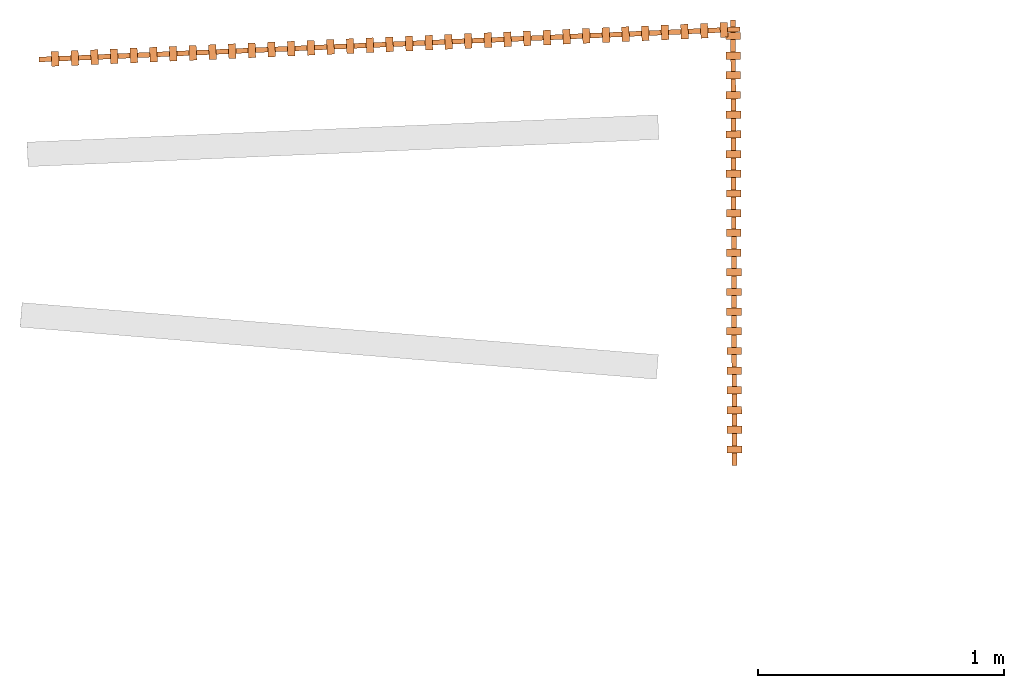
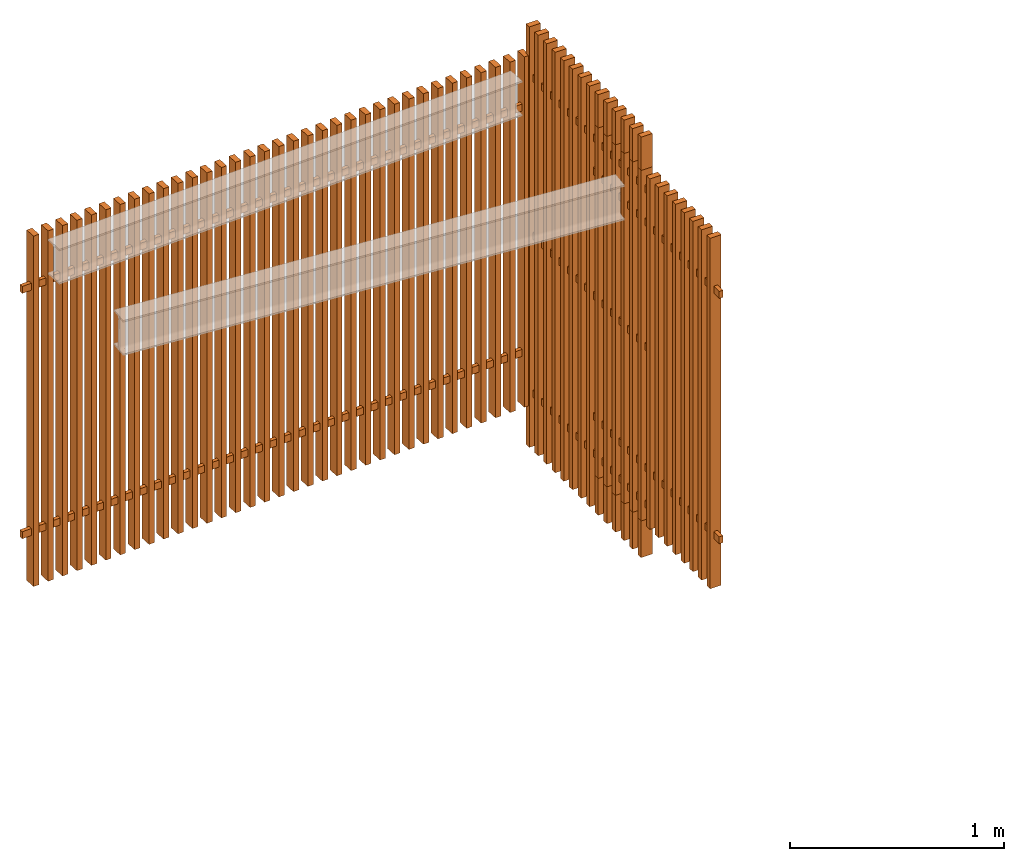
# One storey, part 2 of 2: 5 proxies.
"""IFC2X3 building model written with IfcOpenShell, lengths in metres."""

from ifc_helpers import new_model, entity, si_unit, converted_unit, derived_unit, direction, frame, frame_2d, origin, origin_2d_with_axis, place, context, subcontext, project, spatial, rectangle, extrude, source, transform, mapped, material, type_object, type_shapes, element, save


model = new_model("IFC2X3")

# Units and contexts
model_context = context("Model", 3, precision=1e-05, world=origin(), true_north=direction((6.123031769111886e-17, 1.0)))
body_context = subcontext(model_context, "Body", "Model", "MODEL_VIEW")
ifc_project = project(units=[si_unit("LENGTHUNIT", "METRE"), si_unit("AREAUNIT", "SQUARE_METRE"), converted_unit("PLANEANGLEUNIT", "DEGREE", entity("IfcPlaneAngleMeasure", 0.017453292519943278), si_unit("PLANEANGLEUNIT", "RADIAN"), dimensions=[0, 0, 0, 0, 0, 0, 0]), derived_unit("THERMALTRANSMITTANCEUNIT", [(si_unit("MASSUNIT", "GRAM", prefix="KILO"), 1), (si_unit("THERMODYNAMICTEMPERATUREUNIT", "KELVIN"), -1), (si_unit("TIMEUNIT", "SECOND"), -3)])], contexts=[model_context])

# Site, building, storey
site_placement = place(None, origin())
site = spatial("IfcSite", under=ifc_project, at=site_placement, Name="Default", CompositionType="ELEMENT")
building_placement = place(site_placement, origin())
building = spatial("IfcBuilding", under=site, at=building_placement, CompositionType="ELEMENT")
storey_placement = place(building_placement, frame((0.0, 0.0, 4.580000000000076)))
storey = spatial("IfcBuildingStorey", under=building, at=storey_placement, Name="01_N1 CAF", CompositionType="ELEMENT", Elevation=4.580000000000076)

# Proxies
ifc_material = material(Name="blackebony")
building_element_proxy_type_1 = type_object("IfcBuildingElementProxyType", Name="SENBON Lattice Fence_Reversible Unit_gap 50mm:千本格子リバーシブルユニット\u3000隙間50㎜_H2000", PredefinedType="NOTDEFINED", material=ifc_material)
shared_shape_1 = source(origin(), body_context, "Body", "SweptSolid", [
    extrude(rectangle(XDim=0.029999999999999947, YDim=0.060000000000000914, at=origin_2d_with_axis()), frame((0.4399999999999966, 0.0, 0.0), z_axis=(0.0, 0.0, 1.0), x_axis=(-1.0, 0.0, 0.0)), (0.0, 0.0, 1.0), 2.0),
    extrude(rectangle(XDim=0.029999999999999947, YDim=0.060000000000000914, at=origin_2d_with_axis()), frame((0.3599999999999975, 0.0, 0.0), z_axis=(0.0, 0.0, 1.0), x_axis=(-1.0, 0.0, 0.0)), (0.0, 0.0, 1.0), 2.0),
    extrude(rectangle(XDim=0.02999999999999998, YDim=0.060000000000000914, at=frame_2d((-1.734723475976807e-17, 0.0), x_axis=(1.0, 0.0))), frame((0.2799999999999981, 0.0, 0.0), z_axis=(0.0, 0.0, 1.0), x_axis=(-1.0, 0.0, 0.0)), (0.0, 0.0, 1.0), 2.0),
    extrude(rectangle(XDim=0.02999999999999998, YDim=0.060000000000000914, at=frame_2d((-1.734723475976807e-17, 0.0), x_axis=(1.0, 0.0))), frame((0.19999999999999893, 0.0, 0.0), z_axis=(0.0, 0.0, 1.0), x_axis=(-1.0, 0.0, 0.0)), (0.0, 0.0, 1.0), 2.0),
    extrude(rectangle(XDim=0.029999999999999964, YDim=0.060000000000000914, at=frame_2d((8.673617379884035e-18, 0.0), x_axis=(1.0, 0.0))), frame((0.11999999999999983, 0.0, 0.0), z_axis=(0.0, 0.0, 1.0), x_axis=(-1.0, 0.0, 0.0)), (0.0, 0.0, 1.0), 2.0),
    extrude(rectangle(XDim=0.02999999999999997, YDim=0.060000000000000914, at=frame_2d((2.6020852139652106e-18, 0.0), x_axis=(1.0, 0.0))), frame((0.04000000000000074, 0.0, 0.0), z_axis=(0.0, 0.0, 1.0), x_axis=(-1.0, 0.0, 0.0)), (0.0, 0.0, 1.0), 2.0),
    extrude(rectangle(XDim=0.02999999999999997, YDim=0.060000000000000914, at=frame_2d((4.336808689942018e-18, 0.0), x_axis=(1.0, 0.0))), frame((-0.03999999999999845, 0.0, 0.0), z_axis=(0.0, 0.0, 1.0), x_axis=(-1.0, 0.0, 0.0)), (0.0, 0.0, 1.0), 2.0),
    extrude(rectangle(XDim=0.029999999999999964, YDim=0.060000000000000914, at=frame_2d((8.673617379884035e-18, 0.0), x_axis=(1.0, 0.0))), frame((-0.11999999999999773, 0.0, 0.0), z_axis=(0.0, 0.0, 1.0), x_axis=(-1.0, 0.0, 0.0)), (0.0, 0.0, 1.0), 2.0),
    extrude(rectangle(XDim=0.02999999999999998, YDim=0.060000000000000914, at=frame_2d((-1.734723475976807e-17, 0.0), x_axis=(1.0, 0.0))), frame((-0.1999999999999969, 0.0, 0.0), z_axis=(0.0, 0.0, 1.0), x_axis=(-1.0, 0.0, 0.0)), (0.0, 0.0, 1.0), 2.0),
    extrude(rectangle(XDim=0.02999999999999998, YDim=0.060000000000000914, at=frame_2d((-1.734723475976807e-17, 0.0), x_axis=(1.0, 0.0))), frame((-0.27999999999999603, 0.0, 0.0), z_axis=(0.0, 0.0, 1.0), x_axis=(-1.0, 0.0, 0.0)), (0.0, 0.0, 1.0), 2.0),
    extrude(rectangle(XDim=0.029999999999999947, YDim=0.060000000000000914, at=origin_2d_with_axis()), frame((-0.3599999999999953, 0.0, 0.0), z_axis=(0.0, 0.0, 1.0), x_axis=(-1.0, 0.0, 0.0)), (0.0, 0.0, 1.0), 2.0),
    extrude(rectangle(XDim=0.029999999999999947, YDim=0.060000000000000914, at=origin_2d_with_axis()), frame((-0.43999999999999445, 0.0, 0.0), z_axis=(0.0, 0.0, 1.0), x_axis=(-1.0, 0.0, 0.0)), (0.0, 0.0, 1.0), 2.0),
    extrude(rectangle(XDim=0.029999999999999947, YDim=0.060000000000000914, at=origin_2d_with_axis()), frame((0.5199999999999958, 0.0, 0.0), z_axis=(0.0, 0.0, 1.0), x_axis=(-1.0, 0.0, 0.0)), (0.0, 0.0, 1.0), 2.0),
    extrude(rectangle(XDim=0.02, YDim=1.17, at=origin_2d_with_axis()), frame((0.0, 0.0, 1.679999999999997), z_axis=(0.0, 0.0, 1.0), x_axis=(0.0, 1.0, 0.0)), (0.0, 0.0, 1.0), 0.04000000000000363),
    extrude(rectangle(XDim=0.029999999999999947, YDim=0.060000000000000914, at=origin_2d_with_axis()), frame((-0.5199999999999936, 0.0, 0.0), z_axis=(0.0, 0.0, 1.0), x_axis=(-1.0, 0.0, 0.0)), (0.0, 0.0, 1.0), 2.0),
    extrude(rectangle(XDim=0.02, YDim=1.17, at=origin_2d_with_axis()), frame((0.0, 0.0, 0.2800000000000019), z_axis=(0.0, 0.0, 1.0), x_axis=(0.0, 1.0, 0.0)), (0.0, 0.0, 1.0), 0.040000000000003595),
])
type_shapes(building_element_proxy_type_1, [shared_shape_1])
for number, where, z_axis, x_axis in (
    (1, (21.669949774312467, 147.42408629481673, -4.13), (0.0, 0.0, 1.0), (0.0033200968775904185, -0.9999944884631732, 0.0)),
    (2, (19.430839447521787, 148.51374538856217, -4.110000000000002), (0.0, 0.0, 1.0), (0.9990648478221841, 0.04323690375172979, 0.0)),
    (3, (20.54979476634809, 148.5621708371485, -4.110000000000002), (0.0, 0.0, 1.0), (0.9990648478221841, 0.04323690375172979, 0.0)),
    (4, (21.109271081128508, 148.58638350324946, -4.110000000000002), (0.0, 0.0, 1.0), (0.9990648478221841, 0.04323690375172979, 0.0)),
):
    element("IfcBuildingElementProxy", number, at=place(storey_placement, frame(where, z_axis=z_axis, x_axis=x_axis)), inside=storey, type_object=building_element_proxy_type_1, material=ifc_material, Name="SENBON Lattice Fence_Reversible Unit_gap 50mm:千本格子リバーシブルユニット\u3000隙間50㎜_H2000", ObjectType="SENBON Lattice Fence_Reversible Unit_gap 50mm:千本格子リバーシブルユニット\u3000隙間50㎜_H2000", context=body_context, shape_type="MappedRepresentation", body=[
        mapped(shared_shape_1, transform((0.0, 0.0, 0.0), scale=1.0)),
    ])
building_element_proxy_type_2 = type_object("IfcBuildingElementProxyType", Name="SENBON Lattice Fence_Reversible Unit_gap 50mm:千本格子リバーシブルユニット\u3000隙間50㎜_H2400", PredefinedType="NOTDEFINED", material=ifc_material)
shared_shape_2 = source(origin(), body_context, "Body", "SweptSolid", [
    extrude(rectangle(XDim=0.02, YDim=1.17, at=origin_2d_with_axis()), frame((0.0, 0.0, 1.1799999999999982), z_axis=(0.0, 0.0, 1.0), x_axis=(0.0, 1.0, 0.0)), (0.0, 0.0, 1.0), 0.0400000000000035),
    extrude(rectangle(XDim=0.029999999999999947, YDim=0.060000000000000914, at=origin_2d_with_axis()), frame((0.4399999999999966, 0.0, 0.0), z_axis=(0.0, 0.0, 1.0), x_axis=(-1.0, 0.0, 0.0)), (0.0, 0.0, 1.0), 2.4000000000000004),
    extrude(rectangle(XDim=0.029999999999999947, YDim=0.060000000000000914, at=origin_2d_with_axis()), frame((0.3599999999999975, 0.0, 0.0), z_axis=(0.0, 0.0, 1.0), x_axis=(-1.0, 0.0, 0.0)), (0.0, 0.0, 1.0), 2.4000000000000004),
    extrude(rectangle(XDim=0.02999999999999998, YDim=0.060000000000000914, at=frame_2d((-1.734723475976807e-17, 0.0), x_axis=(1.0, 0.0))), frame((0.2799999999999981, 0.0, 0.0), z_axis=(0.0, 0.0, 1.0), x_axis=(-1.0, 0.0, 0.0)), (0.0, 0.0, 1.0), 2.4000000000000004),
    extrude(rectangle(XDim=0.02999999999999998, YDim=0.060000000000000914, at=frame_2d((-1.734723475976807e-17, 0.0), x_axis=(1.0, 0.0))), frame((0.19999999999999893, 0.0, 0.0), z_axis=(0.0, 0.0, 1.0), x_axis=(-1.0, 0.0, 0.0)), (0.0, 0.0, 1.0), 2.4000000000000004),
    extrude(rectangle(XDim=0.029999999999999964, YDim=0.060000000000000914, at=frame_2d((8.673617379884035e-18, 0.0), x_axis=(1.0, 0.0))), frame((0.11999999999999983, 0.0, 0.0), z_axis=(0.0, 0.0, 1.0), x_axis=(-1.0, 0.0, 0.0)), (0.0, 0.0, 1.0), 2.4000000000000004),
    extrude(rectangle(XDim=0.02999999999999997, YDim=0.060000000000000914, at=frame_2d((2.6020852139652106e-18, 0.0), x_axis=(1.0, 0.0))), frame((0.04000000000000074, 0.0, 0.0), z_axis=(0.0, 0.0, 1.0), x_axis=(-1.0, 0.0, 0.0)), (0.0, 0.0, 1.0), 2.4000000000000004),
    extrude(rectangle(XDim=0.02999999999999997, YDim=0.060000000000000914, at=frame_2d((4.336808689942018e-18, 0.0), x_axis=(1.0, 0.0))), frame((-0.03999999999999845, 0.0, 0.0), z_axis=(0.0, 0.0, 1.0), x_axis=(-1.0, 0.0, 0.0)), (0.0, 0.0, 1.0), 2.4000000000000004),
    extrude(rectangle(XDim=0.029999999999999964, YDim=0.060000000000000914, at=frame_2d((8.673617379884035e-18, 0.0), x_axis=(1.0, 0.0))), frame((-0.11999999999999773, 0.0, 0.0), z_axis=(0.0, 0.0, 1.0), x_axis=(-1.0, 0.0, 0.0)), (0.0, 0.0, 1.0), 2.4000000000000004),
    extrude(rectangle(XDim=0.02999999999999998, YDim=0.060000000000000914, at=frame_2d((-1.734723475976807e-17, 0.0), x_axis=(1.0, 0.0))), frame((-0.1999999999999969, 0.0, 0.0), z_axis=(0.0, 0.0, 1.0), x_axis=(-1.0, 0.0, 0.0)), (0.0, 0.0, 1.0), 2.4000000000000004),
    extrude(rectangle(XDim=0.02999999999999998, YDim=0.060000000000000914, at=frame_2d((-1.734723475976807e-17, 0.0), x_axis=(1.0, 0.0))), frame((-0.27999999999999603, 0.0, 0.0), z_axis=(0.0, 0.0, 1.0), x_axis=(-1.0, 0.0, 0.0)), (0.0, 0.0, 1.0), 2.4000000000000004),
    extrude(rectangle(XDim=0.029999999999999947, YDim=0.060000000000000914, at=origin_2d_with_axis()), frame((-0.3599999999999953, 0.0, 0.0), z_axis=(0.0, 0.0, 1.0), x_axis=(-1.0, 0.0, 0.0)), (0.0, 0.0, 1.0), 2.4000000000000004),
    extrude(rectangle(XDim=0.029999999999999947, YDim=0.060000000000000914, at=origin_2d_with_axis()), frame((-0.43999999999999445, 0.0, 0.0), z_axis=(0.0, 0.0, 1.0), x_axis=(-1.0, 0.0, 0.0)), (0.0, 0.0, 1.0), 2.4000000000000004),
    extrude(rectangle(XDim=0.029999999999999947, YDim=0.060000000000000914, at=origin_2d_with_axis()), frame((0.5199999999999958, 0.0, 0.0), z_axis=(0.0, 0.0, 1.0), x_axis=(-1.0, 0.0, 0.0)), (0.0, 0.0, 1.0), 2.4000000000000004),
    extrude(rectangle(XDim=0.02, YDim=1.17, at=origin_2d_with_axis()), frame((0.0, 0.0, 2.079999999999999), z_axis=(0.0, 0.0, 1.0), x_axis=(0.0, 1.0, 0.0)), (0.0, 0.0, 1.0), 0.04000000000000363),
    extrude(rectangle(XDim=0.029999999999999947, YDim=0.060000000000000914, at=origin_2d_with_axis()), frame((-0.5199999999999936, 0.0, 0.0), z_axis=(0.0, 0.0, 1.0), x_axis=(-1.0, 0.0, 0.0)), (0.0, 0.0, 1.0), 2.4000000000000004),
    extrude(rectangle(XDim=0.02, YDim=1.17, at=origin_2d_with_axis()), frame((0.0, 0.0, 0.2800000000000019), z_axis=(0.0, 0.0, 1.0), x_axis=(0.0, 1.0, 0.0)), (0.0, 0.0, 1.0), 0.040000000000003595),
])
type_shapes(building_element_proxy_type_2, [shared_shape_2])
proxy_placement = place(storey_placement, frame((21.66782491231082, 148.06408276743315, -4.339999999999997), z_axis=(0.0, 0.0, 1.0), x_axis=(0.0033200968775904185, -0.9999944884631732, 0.0)))
element("IfcBuildingElementProxy", 5, at=proxy_placement, inside=storey, type_object=building_element_proxy_type_2, material=ifc_material, Name="SENBON Lattice Fence_Reversible Unit_gap 50mm:千本格子リバーシブルユニット\u3000隙間50㎜_H2400", ObjectType="SENBON Lattice Fence_Reversible Unit_gap 50mm:千本格子リバーシブルユニット\u3000隙間50㎜_H2400", context=body_context, shape_type="MappedRepresentation", body=[
    mapped(shared_shape_2, transform((0.0, 0.0, 0.0), scale=1.0)),
])

save(model, "model.ifc")
